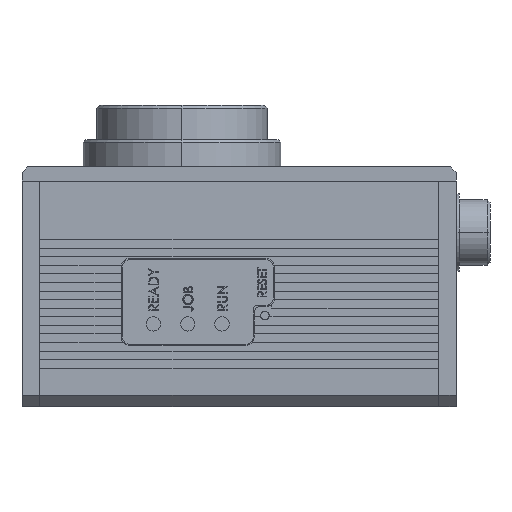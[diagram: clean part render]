
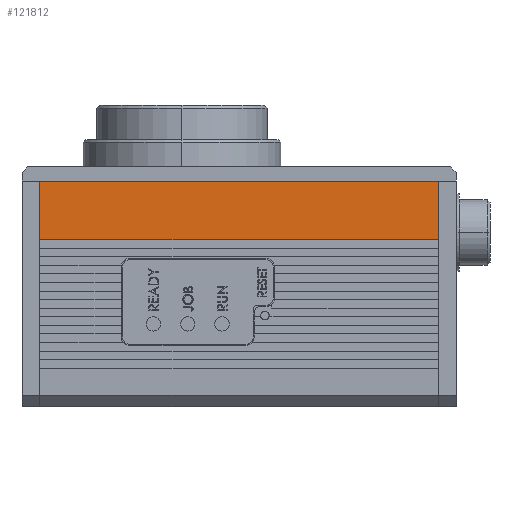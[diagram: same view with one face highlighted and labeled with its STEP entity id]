
A CAD part, left-side view. The second image highlights one B-rep face of the part: STEP entity #121812.
In plain terms, the highlighted planar face has unit normal (-1, 0, 0).
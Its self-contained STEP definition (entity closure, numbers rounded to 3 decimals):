
#4962 = CARTESIAN_POINT ( 'NONE',  ( -28.5, 34.9, -2.5 ) ) ;
#7501 = EDGE_LOOP ( 'NONE', ( #116244, #55540, #123113, #89167 ) ) ;
#19956 = DIRECTION ( 'NONE',  ( 0., 0., -1. ) ) ;
#27477 = VECTOR ( 'NONE', #69455, 1000. ) ;
#32810 = VECTOR ( 'NONE', #19956, 1000. ) ;
#45921 = CARTESIAN_POINT ( 'NONE',  ( -28.5, -34.9, -12.75 ) ) ;
#46800 = CARTESIAN_POINT ( 'NONE',  ( -28.5, 34.9, -2.5 ) ) ;
#53811 = LINE ( 'NONE', #85938, #32810 ) ;
#55540 = ORIENTED_EDGE ( 'NONE', *, *, #63348, .F. ) ;
#56649 = CARTESIAN_POINT ( 'NONE',  ( -28.5, -34.9, -2.6 ) ) ;
#60684 = VECTOR ( 'NONE', #82583, 1000. ) ;
#63348 = EDGE_CURVE ( 'NONE', #79942, #141155, #79901, .T. ) ;
#66045 = VECTOR ( 'NONE', #133649, 1000. ) ;
#67249 = CARTESIAN_POINT ( 'NONE',  ( -28.5, 34.9, -2.6 ) ) ;
#67908 = PLANE ( 'NONE',  #123462 ) ;
#69455 = DIRECTION ( 'NONE',  ( 0., 1., 0. ) ) ;
#70011 = EDGE_CURVE ( 'NONE', #87329, #79942, #53811, .T. ) ;
#70180 = EDGE_CURVE ( 'NONE', #132798, #141155, #95806, .T. ) ;
#77470 = FACE_OUTER_BOUND ( 'NONE', #7501, .T. ) ;
#78585 = CARTESIAN_POINT ( 'NONE',  ( -28.5, 34.9, -12.75 ) ) ;
#79735 = CARTESIAN_POINT ( 'NONE',  ( -28.5, -34.9, -12.75 ) ) ;
#79901 = LINE ( 'NONE', #79735, #27477 ) ;
#79942 = VERTEX_POINT ( 'NONE', #45921 ) ;
#82583 = DIRECTION ( 'NONE',  ( 0., -1., 0. ) ) ;
#85938 = CARTESIAN_POINT ( 'NONE',  ( -28.5, -34.9, -2.6 ) ) ;
#87329 = VERTEX_POINT ( 'NONE', #135262 ) ;
#87475 = EDGE_CURVE ( 'NONE', #132798, #87329, #102669, .T. ) ;
#89167 = ORIENTED_EDGE ( 'NONE', *, *, #87475, .F. ) ;
#95806 = LINE ( 'NONE', #67249, #66045 ) ;
#102669 = LINE ( 'NONE', #4962, #60684 ) ;
#112360 = DIRECTION ( 'NONE',  ( 1., 0., 0. ) ) ;
#116244 = ORIENTED_EDGE ( 'NONE', *, *, #70180, .T. ) ;
#121812 = ADVANCED_FACE ( 'NONE', ( #77470 ), #67908, .F. ) ;
#123113 = ORIENTED_EDGE ( 'NONE', *, *, #70011, .F. ) ;
#123462 = AXIS2_PLACEMENT_3D ( 'NONE', #56649, #112360, #135240 ) ;
#132798 = VERTEX_POINT ( 'NONE', #46800 ) ;
#133649 = DIRECTION ( 'NONE',  ( 0., 0., -1. ) ) ;
#135240 = DIRECTION ( 'NONE',  ( 0., 1., 0. ) ) ;
#135262 = CARTESIAN_POINT ( 'NONE',  ( -28.5, -34.9, -2.5 ) ) ;
#141155 = VERTEX_POINT ( 'NONE', #78585 ) ;
